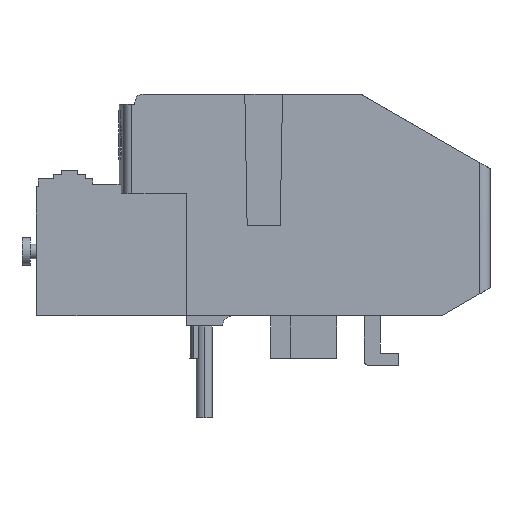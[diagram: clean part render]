
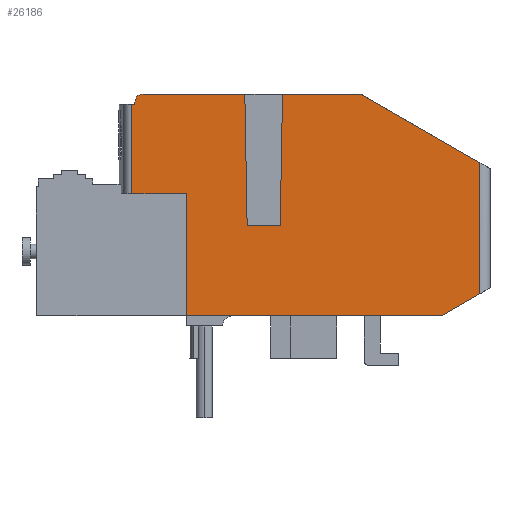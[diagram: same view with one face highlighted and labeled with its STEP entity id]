
A CAD part, left-side view. The second image highlights one B-rep face of the part: STEP entity #26186.
In plain terms, the highlighted planar face has unit normal (-1, 0, 0).
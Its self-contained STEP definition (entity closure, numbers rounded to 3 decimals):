
#1584 = VECTOR ( 'NONE', #18180, 1000. ) ;
#1657 = DIRECTION ( 'NONE',  ( 0., -1., 0. ) ) ;
#2093 = EDGE_LOOP ( 'NONE', ( #19915, #7318, #27069, #46290, #40620, #21388, #17034, #11089, #33541, #11980, #5726, #18508, #48798, #26975, #7876 ) ) ;
#3952 = CARTESIAN_POINT ( 'NONE',  ( -35., 44., 0. ) ) ;
#3973 = CARTESIAN_POINT ( 'NONE',  ( -35., -32., 0. ) ) ;
#4009 = VERTEX_POINT ( 'NONE', #46079 ) ;
#5287 = LINE ( 'NONE', #41312, #44201 ) ;
#5553 = CARTESIAN_POINT ( 'NONE',  ( -35., 44.75, 52.5 ) ) ;
#5726 = ORIENTED_EDGE ( 'NONE', *, *, #22028, .F. ) ;
#6779 = CIRCLE ( 'NONE', #45746, 2. ) ;
#6950 = DIRECTION ( 'NONE',  ( 0., -1., 0. ) ) ;
#7318 = ORIENTED_EDGE ( 'NONE', *, *, #22889, .T. ) ;
#7765 = CARTESIAN_POINT ( 'NONE',  ( -35., 31.3, 30.3 ) ) ;
#7876 = ORIENTED_EDGE ( 'NONE', *, *, #40467, .F. ) ;
#8074 = VERTEX_POINT ( 'NONE', #20657 ) ;
#9333 = LINE ( 'NONE', #5553, #48247 ) ;
#9522 = VECTOR ( 'NONE', #14352, 1000. ) ;
#9848 = CARTESIAN_POINT ( 'NONE',  ( -35., 42., 55. ) ) ;
#10828 = EDGE_CURVE ( 'NONE', #23264, #39071, #27958, .T. ) ;
#11038 = CARTESIAN_POINT ( 'NONE',  ( -35., 42., 53. ) ) ;
#11089 = ORIENTED_EDGE ( 'NONE', *, *, #42206, .T. ) ;
#11980 = ORIENTED_EDGE ( 'NONE', *, *, #10828, .T. ) ;
#13207 = CARTESIAN_POINT ( 'NONE',  ( -35., 44., 30.3 ) ) ;
#13686 = CARTESIAN_POINT ( 'NONE',  ( -35., 31.3, 0. ) ) ;
#13782 = CARTESIAN_POINT ( 'NONE',  ( -35., 44., 53. ) ) ;
#14233 = VERTEX_POINT ( 'NONE', #3973 ) ;
#14352 = DIRECTION ( 'NONE',  ( 0., 0., -1. ) ) ;
#14451 = CARTESIAN_POINT ( 'NONE',  ( -35., -41.5, 5.485 ) ) ;
#14536 = VECTOR ( 'NONE', #19823, 1000. ) ;
#14825 = DIRECTION ( 'NONE',  ( 0., 1., 0. ) ) ;
#14988 = CARTESIAN_POINT ( 'NONE',  ( -35., -41.5, 55. ) ) ;
#15239 = DIRECTION ( 'NONE',  ( 0., 0.866, -0.5 ) ) ;
#16265 = CARTESIAN_POINT ( 'NONE',  ( -35., 31.3, 30.3 ) ) ;
#16919 = VERTEX_POINT ( 'NONE', #34095 ) ;
#17034 = ORIENTED_EDGE ( 'NONE', *, *, #21674, .F. ) ;
#17118 = CARTESIAN_POINT ( 'NONE',  ( -35., 8., 22.5 ) ) ;
#17311 = LINE ( 'NONE', #29542, #27372 ) ;
#17318 = EDGE_CURVE ( 'NONE', #45871, #25725, #22365, .T. ) ;
#17630 = EDGE_CURVE ( 'NONE', #23264, #14233, #5287, .T. ) ;
#17909 = VECTOR ( 'NONE', #41384, 1000. ) ;
#17966 = LINE ( 'NONE', #3952, #36887 ) ;
#18180 = DIRECTION ( 'NONE',  ( 0., -1., 0. ) ) ;
#18354 = LINE ( 'NONE', #48279, #9522 ) ;
#18508 = ORIENTED_EDGE ( 'NONE', *, *, #26881, .F. ) ;
#18672 = DIRECTION ( 'NONE',  ( 0., 0., 1. ) ) ;
#18847 = EDGE_CURVE ( 'NONE', #25725, #8074, #9333, .T. ) ;
#19166 = CARTESIAN_POINT ( 'NONE',  ( -35., 44.75, 52.5 ) ) ;
#19823 = DIRECTION ( 'NONE',  ( 0., -0.017, -1. ) ) ;
#19915 = ORIENTED_EDGE ( 'NONE', *, *, #31632, .F. ) ;
#20082 = PLANE ( 'NONE',  #47699 ) ;
#20657 = CARTESIAN_POINT ( 'NONE',  ( -35., 44., 52.5 ) ) ;
#21388 = ORIENTED_EDGE ( 'NONE', *, *, #28273, .F. ) ;
#21674 = EDGE_CURVE ( 'NONE', #45975, #27496, #30455, .T. ) ;
#22028 = EDGE_CURVE ( 'NONE', #47780, #39071, #43385, .T. ) ;
#22365 = LINE ( 'NONE', #45049, #31243 ) ;
#22889 = EDGE_CURVE ( 'NONE', #32971, #48543, #6779, .T. ) ;
#23264 = VERTEX_POINT ( 'NONE', #14451 ) ;
#23317 = VECTOR ( 'NONE', #42784, 1000. ) ;
#23613 = CARTESIAN_POINT ( 'NONE',  ( -35., 7.433, 55. ) ) ;
#23803 = VECTOR ( 'NONE', #1657, 1000. ) ;
#23875 = DIRECTION ( 'NONE',  ( 0., 1., 0. ) ) ;
#24403 = CARTESIAN_POINT ( 'NONE',  ( -35., 44.75, 30.3 ) ) ;
#24556 = LINE ( 'NONE', #46192, #14536 ) ;
#24994 = LINE ( 'NONE', #28017, #23803 ) ;
#25725 = VERTEX_POINT ( 'NONE', #19166 ) ;
#26186 = ADVANCED_FACE ( 'NONE', ( #35837 ), #20082, .F. ) ;
#26846 = LINE ( 'NONE', #47948, #39810 ) ;
#26881 = EDGE_CURVE ( 'NONE', #27154, #47780, #41713, .T. ) ;
#26975 = ORIENTED_EDGE ( 'NONE', *, *, #31427, .F. ) ;
#27069 = ORIENTED_EDGE ( 'NONE', *, *, #46071, .T. ) ;
#27154 = VERTEX_POINT ( 'NONE', #23613 ) ;
#27372 = VECTOR ( 'NONE', #6950, 1000. ) ;
#27441 = CARTESIAN_POINT ( 'NONE',  ( -35., -41.5, 37.968 ) ) ;
#27496 = VERTEX_POINT ( 'NONE', #7765 ) ;
#27958 = LINE ( 'NONE', #14988, #17909 ) ;
#28017 = CARTESIAN_POINT ( 'NONE',  ( -35., 44., 55. ) ) ;
#28123 = DIRECTION ( 'NONE',  ( 0., -1., 0. ) ) ;
#28273 = EDGE_CURVE ( 'NONE', #27496, #45871, #48152, .T. ) ;
#29254 = VECTOR ( 'NONE', #31440, 1000. ) ;
#29542 = CARTESIAN_POINT ( 'NONE',  ( -35., 16.2, 22.5 ) ) ;
#30440 = EDGE_CURVE ( 'NONE', #33968, #27154, #26846, .T. ) ;
#30455 = LINE ( 'NONE', #16265, #29254 ) ;
#31243 = VECTOR ( 'NONE', #18672, 1000. ) ;
#31427 = EDGE_CURVE ( 'NONE', #4009, #33968, #17311, .T. ) ;
#31440 = DIRECTION ( 'NONE',  ( 0., 0., 1. ) ) ;
#31632 = EDGE_CURVE ( 'NONE', #32971, #16919, #24994, .T. ) ;
#32971 = VERTEX_POINT ( 'NONE', #9848 ) ;
#33541 = ORIENTED_EDGE ( 'NONE', *, *, #17630, .F. ) ;
#33968 = VERTEX_POINT ( 'NONE', #17118 ) ;
#34087 = DIRECTION ( 'NONE',  ( 0., -1., 0. ) ) ;
#34095 = CARTESIAN_POINT ( 'NONE',  ( -35., 16.767, 55. ) ) ;
#35115 = CARTESIAN_POINT ( 'NONE',  ( -35., 44., 55. ) ) ;
#35211 = CARTESIAN_POINT ( 'NONE',  ( -35., -12., 55. ) ) ;
#35837 = FACE_OUTER_BOUND ( 'NONE', #2093, .T. ) ;
#36887 = VECTOR ( 'NONE', #34087, 1000. ) ;
#37009 = CARTESIAN_POINT ( 'NONE',  ( -35., 44., 55. ) ) ;
#37422 = DIRECTION ( 'NONE',  ( -1., 0., 0. ) ) ;
#38152 = VECTOR ( 'NONE', #47149, 1000. ) ;
#39071 = VERTEX_POINT ( 'NONE', #27441 ) ;
#39810 = VECTOR ( 'NONE', #44502, 1000. ) ;
#40467 = EDGE_CURVE ( 'NONE', #16919, #4009, #24556, .T. ) ;
#40620 = ORIENTED_EDGE ( 'NONE', *, *, #17318, .F. ) ;
#41312 = CARTESIAN_POINT ( 'NONE',  ( -35., -32., 0. ) ) ;
#41384 = DIRECTION ( 'NONE',  ( 0., 0., 1. ) ) ;
#41713 = LINE ( 'NONE', #37009, #1584 ) ;
#42206 = EDGE_CURVE ( 'NONE', #45975, #14233, #17966, .T. ) ;
#42784 = DIRECTION ( 'NONE',  ( 0., -0.866, -0.5 ) ) ;
#43385 = LINE ( 'NONE', #35211, #23317 ) ;
#44201 = VECTOR ( 'NONE', #15239, 1000. ) ;
#44502 = DIRECTION ( 'NONE',  ( 0., -0.017, 1. ) ) ;
#45049 = CARTESIAN_POINT ( 'NONE',  ( -35., 44.75, -39.814 ) ) ;
#45746 = AXIS2_PLACEMENT_3D ( 'NONE', #11038, #37422, #14825 ) ;
#45871 = VERTEX_POINT ( 'NONE', #24403 ) ;
#45975 = VERTEX_POINT ( 'NONE', #13686 ) ;
#46071 = EDGE_CURVE ( 'NONE', #48543, #8074, #18354, .T. ) ;
#46079 = CARTESIAN_POINT ( 'NONE',  ( -35., 16.2, 22.5 ) ) ;
#46192 = CARTESIAN_POINT ( 'NONE',  ( -35., 16.767, 55. ) ) ;
#46290 = ORIENTED_EDGE ( 'NONE', *, *, #18847, .F. ) ;
#46452 = DIRECTION ( 'NONE',  ( 1., 0., 0. ) ) ;
#47149 = DIRECTION ( 'NONE',  ( 0., 1., 0. ) ) ;
#47699 = AXIS2_PLACEMENT_3D ( 'NONE', #35115, #46452, #23875 ) ;
#47780 = VERTEX_POINT ( 'NONE', #48565 ) ;
#47948 = CARTESIAN_POINT ( 'NONE',  ( -35., 8., 22.5 ) ) ;
#48152 = LINE ( 'NONE', #13207, #38152 ) ;
#48247 = VECTOR ( 'NONE', #28123, 1000. ) ;
#48279 = CARTESIAN_POINT ( 'NONE',  ( -35., 44., 55. ) ) ;
#48543 = VERTEX_POINT ( 'NONE', #13782 ) ;
#48565 = CARTESIAN_POINT ( 'NONE',  ( -35., -12., 55. ) ) ;
#48798 = ORIENTED_EDGE ( 'NONE', *, *, #30440, .F. ) ;
